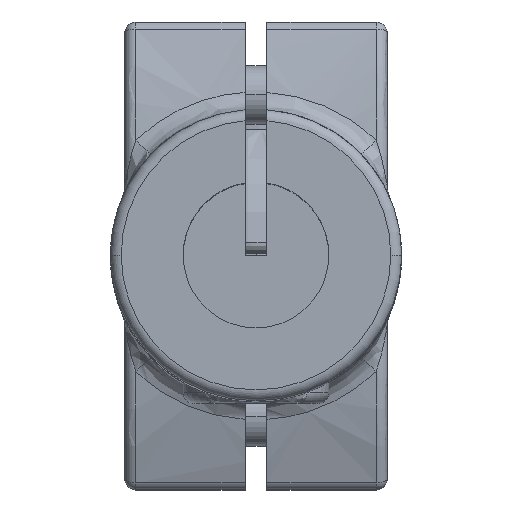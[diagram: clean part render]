
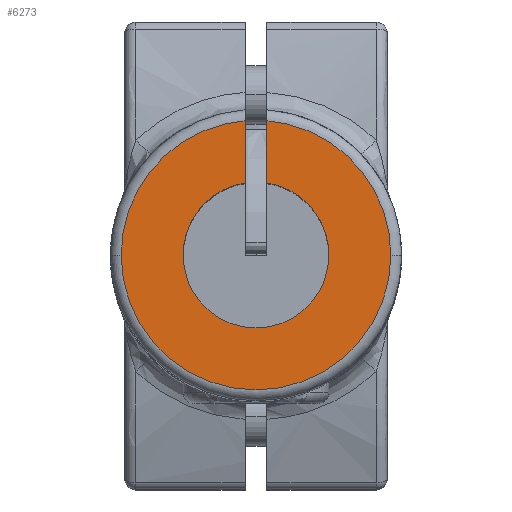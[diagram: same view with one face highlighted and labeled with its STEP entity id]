
A CAD part, top view. The second image highlights one B-rep face of the part: STEP entity #6273.
In plain terms, the highlighted planar face has unit normal (0, 0, 1) as drawn and (0, 0, -1) by its records, which use the part's own axes.
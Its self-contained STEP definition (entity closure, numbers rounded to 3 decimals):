
#148 = DIRECTION ( 'NONE',  ( 0., 0., 1. ) ) ;
#1064 = CARTESIAN_POINT ( 'NONE',  ( 0., 0., 0. ) ) ;
#1089 = DIRECTION ( 'NONE',  ( 1., 0., 0. ) ) ;
#1251 = CARTESIAN_POINT ( 'NONE',  ( -1.5, 0., 0. ) ) ;
#1305 = VECTOR ( 'NONE', #13407, 1000. ) ;
#1982 = CARTESIAN_POINT ( 'NONE',  ( 0., 0., 0. ) ) ;
#2313 = CARTESIAN_POINT ( 'NONE',  ( 10., 0., 0. ) ) ;
#2503 = CARTESIAN_POINT ( 'NONE',  ( 0., 0., 0. ) ) ;
#3054 = EDGE_CURVE ( 'NONE', #10367, #19101, #4271, .T. ) ;
#3373 = EDGE_CURVE ( 'NONE', #16856, #10948, #12865, .T. ) ;
#3649 = AXIS2_PLACEMENT_3D ( 'NONE', #2503, #5405, #7212 ) ;
#4007 = PLANE ( 'NONE',  #10789 ) ;
#4086 = DIRECTION ( 'NONE',  ( 1., 0., 0. ) ) ;
#4195 = AXIS2_PLACEMENT_3D ( 'NONE', #17718, #13038, #4086 ) ;
#4271 = LINE ( 'NONE', #1251, #1305 ) ;
#4892 = DIRECTION ( 'NONE',  ( 0., 0., -1. ) ) ;
#5205 = CARTESIAN_POINT ( 'NONE',  ( -1.5, 18.439, 0. ) ) ;
#5405 = DIRECTION ( 'NONE',  ( 0., 0., 1. ) ) ;
#5611 = AXIS2_PLACEMENT_3D ( 'NONE', #1064, #7187, #13323 ) ;
#5840 = CARTESIAN_POINT ( 'NONE',  ( 1.5, 9.887, 0. ) ) ;
#6273 = ADVANCED_FACE ( 'NONE', ( #16361 ), #4007, .F. ) ;
#6416 = CIRCLE ( 'NONE', #10611, 18.5 ) ;
#7187 = DIRECTION ( 'NONE',  ( 0., 0., 1. ) ) ;
#7212 = DIRECTION ( 'NONE',  ( -1., 0., 0. ) ) ;
#7530 = DIRECTION ( 'NONE',  ( 0., -1., 0. ) ) ;
#7566 = CARTESIAN_POINT ( 'NONE',  ( 1.5, 18.439, 0. ) ) ;
#7891 = DIRECTION ( 'NONE',  ( -1., 0., 0. ) ) ;
#8325 = VERTEX_POINT ( 'NONE', #7566 ) ;
#8720 = CARTESIAN_POINT ( 'NONE',  ( -1.5, 9.887, 0. ) ) ;
#9390 = VERTEX_POINT ( 'NONE', #16640 ) ;
#9697 = CARTESIAN_POINT ( 'NONE',  ( 18.5, 0., 0. ) ) ;
#9812 = ORIENTED_EDGE ( 'NONE', *, *, #16086, .T. ) ;
#9841 = EDGE_CURVE ( 'NONE', #9390, #10391, #13722, .T. ) ;
#10367 = VERTEX_POINT ( 'NONE', #8720 ) ;
#10391 = VERTEX_POINT ( 'NONE', #2313 ) ;
#10547 = AXIS2_PLACEMENT_3D ( 'NONE', #18719, #148, #7891 ) ;
#10611 = AXIS2_PLACEMENT_3D ( 'NONE', #10680, #13565, #16765 ) ;
#10680 = CARTESIAN_POINT ( 'NONE',  ( 0., 0., 0. ) ) ;
#10789 = AXIS2_PLACEMENT_3D ( 'NONE', #17558, #17846, #1089 ) ;
#10908 = ORIENTED_EDGE ( 'NONE', *, *, #9841, .T. ) ;
#10923 = EDGE_LOOP ( 'NONE', ( #11460, #15234, #16775, #19198, #12095, #9812, #10908, #12625 ) ) ;
#10948 = VERTEX_POINT ( 'NONE', #19626 ) ;
#11092 = EDGE_CURVE ( 'NONE', #10948, #19101, #15361, .T. ) ;
#11454 = EDGE_CURVE ( 'NONE', #8325, #16856, #6416, .T. ) ;
#11460 = ORIENTED_EDGE ( 'NONE', *, *, #12460, .F. ) ;
#12095 = ORIENTED_EDGE ( 'NONE', *, *, #3054, .F. ) ;
#12174 = CARTESIAN_POINT ( 'NONE',  ( 1.5, 0., 0. ) ) ;
#12460 = EDGE_CURVE ( 'NONE', #8325, #18178, #15255, .T. ) ;
#12625 = ORIENTED_EDGE ( 'NONE', *, *, #14410, .T. ) ;
#12865 = CIRCLE ( 'NONE', #4195, 18.5 ) ;
#13038 = DIRECTION ( 'NONE',  ( 0., 0., -1. ) ) ;
#13323 = DIRECTION ( 'NONE',  ( -1., 0., 0. ) ) ;
#13407 = DIRECTION ( 'NONE',  ( 0., 1., 0. ) ) ;
#13565 = DIRECTION ( 'NONE',  ( 0., 0., -1. ) ) ;
#13722 = CIRCLE ( 'NONE', #10547, 10. ) ;
#14136 = DIRECTION ( 'NONE',  ( 1., 0., 0. ) ) ;
#14410 = EDGE_CURVE ( 'NONE', #10391, #18178, #18389, .T. ) ;
#14415 = AXIS2_PLACEMENT_3D ( 'NONE', #1982, #4892, #14136 ) ;
#15234 = ORIENTED_EDGE ( 'NONE', *, *, #11454, .T. ) ;
#15255 = LINE ( 'NONE', #12174, #16641 ) ;
#15361 = CIRCLE ( 'NONE', #14415, 18.5 ) ;
#16086 = EDGE_CURVE ( 'NONE', #10367, #9390, #18101, .T. ) ;
#16361 = FACE_OUTER_BOUND ( 'NONE', #10923, .T. ) ;
#16640 = CARTESIAN_POINT ( 'NONE',  ( -10., 0., 0. ) ) ;
#16641 = VECTOR ( 'NONE', #7530, 1000. ) ;
#16765 = DIRECTION ( 'NONE',  ( 1., 0., 0. ) ) ;
#16775 = ORIENTED_EDGE ( 'NONE', *, *, #3373, .T. ) ;
#16856 = VERTEX_POINT ( 'NONE', #9697 ) ;
#17558 = CARTESIAN_POINT ( 'NONE',  ( 0., 0., 0. ) ) ;
#17718 = CARTESIAN_POINT ( 'NONE',  ( 0., 0., 0. ) ) ;
#17846 = DIRECTION ( 'NONE',  ( 0., 0., 1. ) ) ;
#18101 = CIRCLE ( 'NONE', #5611, 10. ) ;
#18178 = VERTEX_POINT ( 'NONE', #5840 ) ;
#18389 = CIRCLE ( 'NONE', #3649, 10. ) ;
#18719 = CARTESIAN_POINT ( 'NONE',  ( 0., 0., 0. ) ) ;
#19101 = VERTEX_POINT ( 'NONE', #5205 ) ;
#19198 = ORIENTED_EDGE ( 'NONE', *, *, #11092, .T. ) ;
#19626 = CARTESIAN_POINT ( 'NONE',  ( -18.5, 0., 0. ) ) ;
